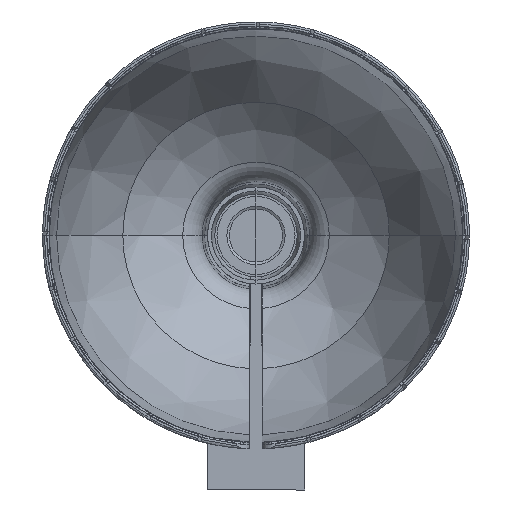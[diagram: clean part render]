
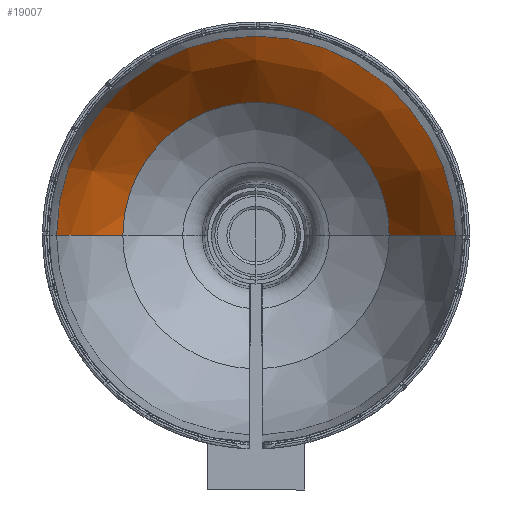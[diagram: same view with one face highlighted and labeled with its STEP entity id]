
A CAD part, left-side view. The second image highlights one B-rep face of the part: STEP entity #19007.
In plain terms, the highlighted free-form (B-spline) face has degree [2, 2] with [3, 5] control points.
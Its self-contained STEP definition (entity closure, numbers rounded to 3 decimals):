
#461=(
BOUNDED_SURFACE()
B_SPLINE_SURFACE(2,2,((#28984,#28985,#28986,#28987,#28988),(#28989,#28990,
#28991,#28992,#28993),(#28994,#28995,#28996,#28997,#28998)),
 .UNSPECIFIED.,.F.,.F.,.F.)
B_SPLINE_SURFACE_WITH_KNOTS((3,3),(3,2,3),(-0.669,-0.162),
(-1.571,0.,1.571),.UNSPECIFIED.)
GEOMETRIC_REPRESENTATION_ITEM()
RATIONAL_B_SPLINE_SURFACE(((1.,0.707,1.,0.707,1.),
(0.968,0.685,0.968,0.685,
0.968),(1.,0.707,1.,0.707,1.)))
REPRESENTATION_ITEM('')
SURFACE()
);
#887=B_SPLINE_CURVE_WITH_KNOTS('',3,(#28892,#28893,#28894,#28895,#28896,
#28897,#28898,#28899,#28900,#28901),.UNSPECIFIED.,.F.,.F.,(4,1,1,1,1,1,
1,4),(0.,0.143,0.286,0.429,0.571,
0.714,0.857,1.),.UNSPECIFIED.);
#1891=FACE_OUTER_BOUND('',#2923,.T.);
#2923=EDGE_LOOP('',(#13032,#13033,#13034,#13035));
#3951=CIRCLE('',#20056,152.203);
#3953=CIRCLE('',#20058,152.203);
#3955=CIRCLE('',#20060,92.505);
#7350=VERTEX_POINT('',#28824);
#7352=VERTEX_POINT('',#28855);
#7354=VERTEX_POINT('',#28911);
#7356=VERTEX_POINT('',#28952);
#9680=EDGE_CURVE('',#7352,#7350,#887,.T.);
#9681=EDGE_CURVE('',#7350,#7354,#3951,.T.);
#9684=EDGE_CURVE('',#7356,#7352,#3953,.T.);
#9687=EDGE_CURVE('',#7356,#7354,#3955,.T.);
#13032=ORIENTED_EDGE('',*,*,#9687,.F.);
#13033=ORIENTED_EDGE('',*,*,#9684,.T.);
#13034=ORIENTED_EDGE('',*,*,#9680,.T.);
#13035=ORIENTED_EDGE('',*,*,#9681,.T.);
#19007=ADVANCED_FACE('',(#1891),#461,.T.);
#20056=AXIS2_PLACEMENT_3D('',#28912,#22295,#22296);
#20058=AXIS2_PLACEMENT_3D('',#28953,#22299,#22300);
#20060=AXIS2_PLACEMENT_3D('',#28999,#22303,#22304);
#22295=DIRECTION('center_axis',(0.,0.,
-1.));
#22296=DIRECTION('ref_axis',(1.,0.,0.));
#22299=DIRECTION('center_axis',(0.,0.,
-1.));
#22300=DIRECTION('ref_axis',(-1.,0.,0.));
#22303=DIRECTION('center_axis',(0.,1.,0.));
#22304=DIRECTION('ref_axis',(0.,0.,-1.));
#28824=CARTESIAN_POINT('',(61.734,-55.691,118.));
#28855=CARTESIAN_POINT('',(-61.734,-55.691,118.));
#28892=CARTESIAN_POINT('Ctrl Pts',(-61.734,-55.691,
118.));
#28893=CARTESIAN_POINT('Ctrl Pts',(-61.869,-55.691,127.298));
#28894=CARTESIAN_POINT('Ctrl Pts',(-57.456,-55.691,
145.67));
#28895=CARTESIAN_POINT('Ctrl Pts',(-39.822,-55.691,
167.921));
#28896=CARTESIAN_POINT('Ctrl Pts',(-14.2,-55.691,180.239));
#28897=CARTESIAN_POINT('Ctrl Pts',(14.2,-55.691,180.239));
#28898=CARTESIAN_POINT('Ctrl Pts',(39.822,-55.691,167.921));
#28899=CARTESIAN_POINT('Ctrl Pts',(57.456,-55.691,145.67));
#28900=CARTESIAN_POINT('Ctrl Pts',(61.869,-55.691,127.298));
#28901=CARTESIAN_POINT('Ctrl Pts',(61.734,-55.691,118.));
#28911=CARTESIAN_POINT('',(92.505,-125.424,118.));
#28912=CARTESIAN_POINT('Origin',(-57.693,-150.047,118.));
#28952=CARTESIAN_POINT('',(-92.505,-125.424,118.));
#28953=CARTESIAN_POINT('Origin',(57.693,-150.047,118.));
#28984=CARTESIAN_POINT('Ctrl Pts',(61.722,-55.676,118.));
#28985=CARTESIAN_POINT('Ctrl Pts',(61.722,-55.676,179.722));
#28986=CARTESIAN_POINT('Ctrl Pts',(0.,-55.676,
179.722));
#28987=CARTESIAN_POINT('Ctrl Pts',(-61.722,-55.676,
179.722));
#28988=CARTESIAN_POINT('Ctrl Pts',(-61.722,-55.676,
118.));
#28989=CARTESIAN_POINT('Ctrl Pts',(86.136,-86.568,118.));
#28990=CARTESIAN_POINT('Ctrl Pts',(86.136,-86.568,204.136));
#28991=CARTESIAN_POINT('Ctrl Pts',(0.,-86.568,
204.136));
#28992=CARTESIAN_POINT('Ctrl Pts',(-86.136,-86.568,
204.136));
#28993=CARTESIAN_POINT('Ctrl Pts',(-86.136,-86.568,
118.));
#28994=CARTESIAN_POINT('Ctrl Pts',(92.505,-125.424,118.));
#28995=CARTESIAN_POINT('Ctrl Pts',(92.505,-125.424,210.505));
#28996=CARTESIAN_POINT('Ctrl Pts',(0.,-125.424,
210.505));
#28997=CARTESIAN_POINT('Ctrl Pts',(-92.505,-125.424,
210.505));
#28998=CARTESIAN_POINT('Ctrl Pts',(-92.505,-125.424,
118.));
#28999=CARTESIAN_POINT('Origin',(0.,-125.424,
118.));
